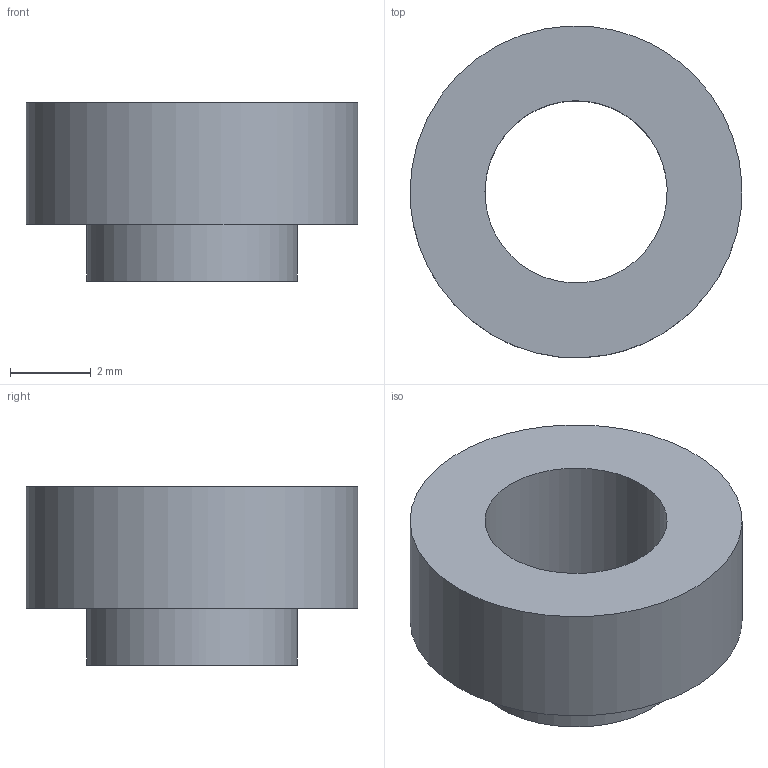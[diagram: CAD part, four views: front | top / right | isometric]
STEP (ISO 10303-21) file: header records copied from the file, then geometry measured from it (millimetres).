
FILE_DESCRIPTION(('FreeCAD Model'),'2;1');
FILE_NAME('Open CASCADE Shape Model','2026-03-20T17:23:10',('Author'),( ''),'Open CASCADE STEP processor 7.8','FreeCAD','Unknown');
FILE_SCHEMA(('AP242_MANAGED_MODEL_BASED_3D_ENGINEERING_MIM_LF. {1 0 10303 442 1 1 4 }'));
Length unit declared in the file: millimetre
Products named in the file (1): 1_transformed
Bounding box: 8.2 x 8.19 x 4.4 mm (x, y, z)
Volume: 119.2 mm3; surface area: 236.6 mm2
Topology: 1 solids, 1 shells, 6 faces, 9 edges, 6 vertices
Faces by surface type: bspline 6
Entity records: 201 total; most frequent: CARTESIAN_POINT 109, ORIENTED_EDGE 18, FACE_BOUND 9, EDGE_LOOP 9, EDGE_CURVE 9, ADVANCED_FACE 6, VERTEX_POINT 6, B_SPLINE_CURVE_WITH_KNOTS 3
